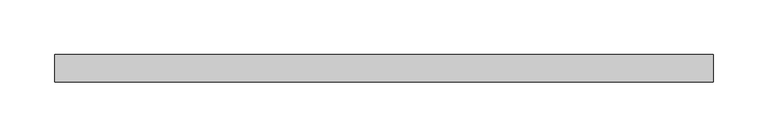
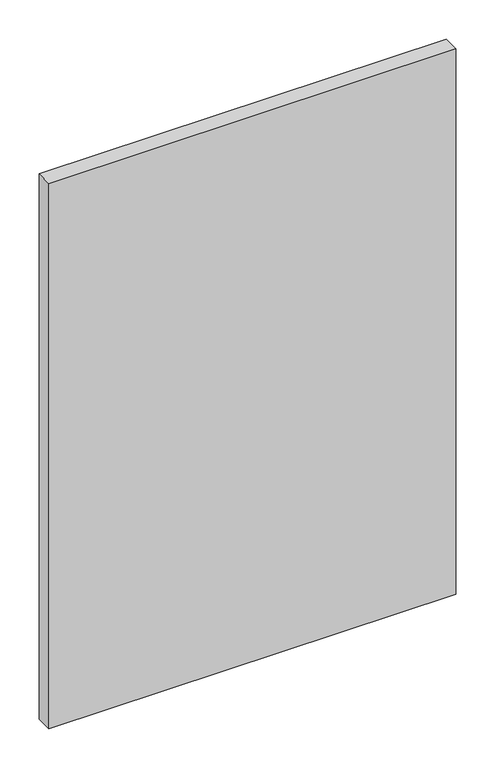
"""IFC4 building model written with IfcOpenShell, lengths in millimetres: plate geometry, 系统嵌板 : 玻璃."""

from ifc_helpers import new_model, si_unit, origin, origin_with_axes, place, context, project, spatial, polyline, outline, extrude, source, transform, mapped, element, save


def plate_1c3dccf0(model_context):
    return source(origin(), model_context, "Body", "SweptSolid", [
        extrude(outline(polyline([(300.0, -12.5), (-300.0, -12.5), (-300.0, 12.5), (300.0, 12.5), (300.0, -12.5)])), origin_with_axes(), (0.0, 0.0, 1.0), 850.0),
    ])


if __name__ == "__main__":
    model = new_model("IFC4")
    model_context = context("Model", 3, world=origin())
    ifc_project = project(units=[si_unit("LENGTHUNIT", "METRE", prefix="MILLI")], contexts=[model_context])
    site = spatial("IfcSite", under=ifc_project)
    building = spatial("IfcBuilding", under=site)
    placement = place(None, origin())
    plate_shape = plate_1c3dccf0(model_context)
    element("IfcPlate", 1, ObjectType="系统嵌板 : 玻璃", at=placement, inside=building, context=model_context, shape_type="MappedRepresentation", body=[
        mapped(plate_shape, transform((0.0, 0.0, 0.0), x_axis=(1.0, 0.0, 0.0), y_axis=(0.0, 1.0, 0.0), z_axis=(0.0, 0.0, 1.0))),
    ])
    save(model, "model.ifc")
